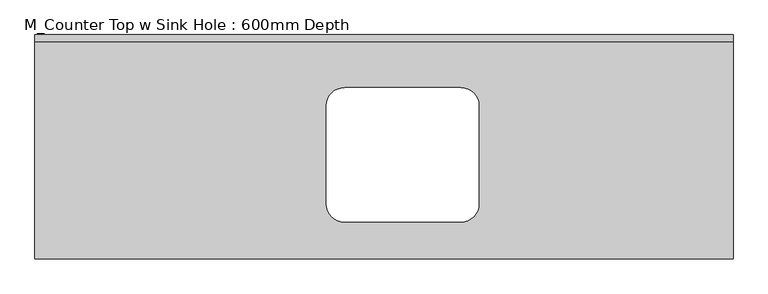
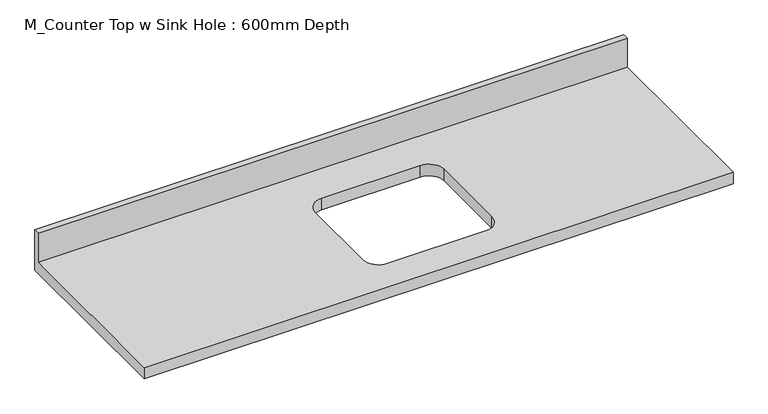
"""IFC4 building model written with IfcOpenShell, lengths in millimetres: furniture geometry, M_Counter Top w Sink Hole : 600mm Depth."""

from ifc_helpers import new_model, si_unit, frame, origin, place, context, project, spatial, polyline, circle_curve, source, transform, mapped, element, save
from ifc_brep_helpers import plane_surface, revolved_surface, advanced_brep


def m_counter_top_w_sink_hole_600mm_depth_08c4f679(model_context):
    return source(origin(), model_context, "Body", "AdvancedBrep", [
        advanced_brep(
        [(-1200.4622951, -625.0, 900.0), (745.5377049, -625.0, 900.0), (745.5377049, -19.05, 900.0), (-1200.4622951, -19.05, 900.0), (-337.3622951, -147.3, 900.0), (-13.5622951, -147.3, 900.0), (37.2377049, -198.1, 900.0), (37.2377049, -471.9, 900.0), (-13.5622951, -522.7, 900.0), (-337.3622951, -522.7, 900.0), (-388.1622951, -471.9, 900.0), (-388.1622951, -198.1, 900.0), (745.5377049, 0.0, 860.0), (745.5377049, -625.0, 860.0), (-1200.4622951, -625.0, 860.0), (-1200.4622951, 0.0, 860.0), (-13.5622951, -147.3, 860.0), (-337.3622951, -147.3, 860.0), (-388.1622951, -198.1, 860.0), (-388.1622951, -471.9, 860.0), (-337.3622951, -522.7, 860.0), (-13.5622951, -522.7, 860.0), (37.2377049, -471.9, 860.0), (37.2377049, -198.1, 860.0), (-1200.4622951, 0.0, 1001.6), (745.5377049, 0.0, 1001.6), (-1200.4622951, -19.05, 1001.6), (745.5377049, -19.05, 1001.6)],
        [
            (0, 1),
            (1, 2),
            (2, 3),
            (3, 0),
            (4, 5),
            (5, 6, circle_curve(frame((-13.5622951, -198.1, 900.0), z_axis=(0.0, 0.0, -1.0), x_axis=(1.0, 0.0, 0.0)), 50.8)),
            (6, 7),
            (7, 8, circle_curve(frame((-13.5622951, -471.9, 900.0), z_axis=(0.0, 0.0, -1.0), x_axis=(1.0, 0.0, 0.0)), 50.8)),
            (8, 9),
            (9, 10, circle_curve(frame((-337.3622951, -471.9, 900.0), z_axis=(0.0, 0.0, -1.0), x_axis=(1.0, 0.0, 0.0)), 50.8)),
            (10, 11),
            (11, 4, circle_curve(frame((-337.3622951, -198.1, 900.0), z_axis=(0.0, 0.0, -1.0), x_axis=(1.0, 0.0, 0.0)), 50.8)),
            (12, 13),
            (13, 14),
            (14, 15),
            (15, 12),
            (16, 17),
            (17, 18, circle_curve(frame((-337.3622951, -198.1, 860.0), z_axis=(0.0, 0.0, 1.0), x_axis=(1.0, 0.0, 0.0)), 50.8)),
            (18, 19),
            (19, 20, circle_curve(frame((-337.3622951, -471.9, 860.0), z_axis=(0.0, 0.0, 1.0), x_axis=(1.0, 0.0, 0.0)), 50.8)),
            (20, 21),
            (21, 22, circle_curve(frame((-13.5622951, -471.9, 860.0), z_axis=(0.0, 0.0, 1.0), x_axis=(1.0, 0.0, 0.0)), 50.8)),
            (22, 23),
            (23, 16, circle_curve(frame((-13.5622951, -198.1, 860.0), z_axis=(0.0, 0.0, 1.0), x_axis=(1.0, 0.0, 0.0)), 50.8)),
            (15, 24),
            (24, 25),
            (25, 12),
            (14, 0),
            (3, 26),
            (26, 24),
            (13, 1),
            (25, 27),
            (27, 2),
            (26, 27),
            (4, 17),
            (16, 5),
            (11, 18),
            (10, 19),
            (9, 20),
            (8, 21),
            (7, 22),
            (6, 23),
        ],
        [
            plane_surface(frame((-1200.4622951, 0.0, 900.0), z_axis=(0.0, 0.0, 1.0), x_axis=(-1.0, 0.0, 0.0))),
            plane_surface(frame((-1200.4622951, 0.0, 860.0), z_axis=(0.0, 0.0, -1.0), x_axis=(1.0, 0.0, 0.0))),
            plane_surface(frame((745.5377049, 0.0, 900.0), z_axis=(0.0, 1.0, 0.0), x_axis=(0.0, 0.0, -1.0))),
            plane_surface(frame((-1200.4622951, 0.0, 900.0), z_axis=(-1.0, 0.0, 0.0), x_axis=(0.0, 0.0, -1.0))),
            plane_surface(frame((-1200.4622951, -625.0, 900.0), z_axis=(0.0, -1.0, 0.0), x_axis=(0.0, 0.0, -1.0))),
            plane_surface(frame((745.5377049, -625.0, 900.0), z_axis=(1.0, 0.0, 0.0), x_axis=(0.0, 0.0, -1.0))),
            plane_surface(frame((-1200.4622951, 0.0, 1001.6), z_axis=(0.0, 0.0, 1.0), x_axis=(0.0, -1.0, 0.0))),
            plane_surface(frame((-1200.4622951, -19.05, 1001.6), z_axis=(0.0, -1.0, 0.0), x_axis=(0.0, 0.0, -1.0))),
            plane_surface(frame((-13.5622951, -147.3, 900.0), z_axis=(0.0, -1.0, 0.0), x_axis=(0.0, 0.0, -1.0))),
            revolved_surface(polyline([(-286.5622951, -198.1, 900.0), (-286.5622951, -198.1, 860.0)]), (-337.3622951, -198.1, 860.0), (0.0, 0.0, 1.0)),
            plane_surface(frame((-388.1622951, -198.1, 900.0), z_axis=(1.0, 0.0, 0.0), x_axis=(0.0, 0.0, -1.0))),
            revolved_surface(polyline([(-286.5622951, -471.9, 900.0), (-286.5622951, -471.9, 860.0)]), (-337.3622951, -471.9, 860.0), (0.0, 0.0, 1.0)),
            plane_surface(frame((-337.3622951, -522.7, 900.0), z_axis=(0.0, 1.0, 0.0), x_axis=(0.0, 0.0, -1.0))),
            revolved_surface(polyline([(37.2377049, -471.9, 900.0), (37.2377049, -471.9, 860.0)]), (-13.5622951, -471.9, 860.0), (0.0, 0.0, 1.0)),
            plane_surface(frame((37.2377049, -471.9, 900.0), z_axis=(-1.0, 0.0, 0.0), x_axis=(0.0, 0.0, -1.0))),
            revolved_surface(polyline([(37.2377049, -198.1, 900.0), (37.2377049, -198.1, 860.0)]), (-13.5622951, -198.1, 860.0), (0.0, 0.0, 1.0)),
        ],
        [
            (0, [[1, 2, 3, 4], [5, 6, 7, 8, 9, 10, 11, 12]]),
            (1, [[13, 14, 15, 16], [17, 18, 19, 20, 21, 22, 23, 24]]),
            (2, [[-16, 25, 26, 27]]),
            (3, [[-15, 28, -4, 29, 30, -25]]),
            (4, [[-1, -28, -14, 31]]),
            (5, [[-13, -27, 32, 33, -2, -31]]),
            (6, [[-30, 34, -32, -26]]),
            (7, [[-34, -29, -3, -33]]),
            (8, [[35, -17, 36, -5]]),
            (9, [[-35, -12, 37, -18]]),
            (10, [[-37, -11, 38, -19]]),
            (11, [[-38, -10, 39, -20]]),
            (12, [[-39, -9, 40, -21]]),
            (13, [[-40, -8, 41, -22]]),
            (14, [[-41, -7, 42, -23]]),
            (15, [[-36, -24, -42, -6]]),
        ],
    ),
    ])


if __name__ == "__main__":
    model = new_model("IFC4")
    model_context = context("Model", 3, world=origin())
    ifc_project = project(units=[si_unit("LENGTHUNIT", "METRE", prefix="MILLI")], contexts=[model_context])
    site = spatial("IfcSite", under=ifc_project)
    building = spatial("IfcBuilding", under=site)
    placement = place(None, origin())
    m_counter_top_w_sink_hole_600mm_depth_shape = m_counter_top_w_sink_hole_600mm_depth_08c4f679(model_context)
    element("IfcFurniture", 1, ObjectType="M_Counter Top w Sink Hole : 600mm Depth", at=placement, inside=building, context=model_context, shape_type="MappedRepresentation", body=[
        mapped(m_counter_top_w_sink_hole_600mm_depth_shape, transform((0.0, 0.0, 0.0), x_axis=(1.0, 0.0, 0.0), y_axis=(0.0, 1.0, 0.0), z_axis=(0.0, 0.0, 1.0))),
    ])
    save(model, "model.ifc")
